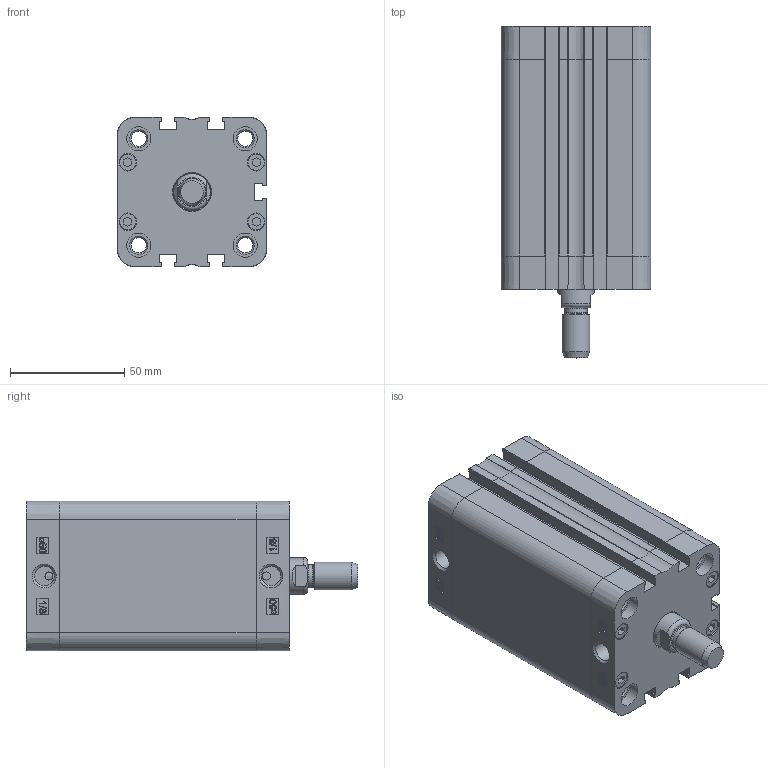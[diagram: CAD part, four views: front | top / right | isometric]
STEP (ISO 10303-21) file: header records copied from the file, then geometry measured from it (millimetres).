
FILE_DESCRIPTION((''),'2;1');
FILE_NAME('T:\Archivio Inventor\- CATALOGHI 2012\SERIE P - NUOVA\PDM\PDM050\PDM050.---.GS.M\PDM050.070.GS.M.stp','2013-02-01T12:20:12',('Administrator'),(''),'Autodesk Inventor 2012','Autodesk Inventor 2012','');
FILE_SCHEMA(('CONFIG_CONTROL_DESIGN'));
Length unit declared in the file: millimetre
Products named in the file (1): PDM050.070.GS.M
Bounding box: 65.5 x 145 x 65.5 mm (x, y, z)
Volume: 238881 mm3; surface area: 93866 mm2
Topology: 2 solids, 6 shells, 780 faces, 1860 edges, 1167 vertices
Faces by surface type: plane 335, bspline 196, cylinder 131, torus 56, cone 46, sphere 16
Full cylindrical faces by diameter (mm): 3.5 x2, 5.2 x4, 6.647 x8, 7.5 x8, 7.7 x8, 8.047 x4, 8.566 x2, 10 x1, 10.5 x8, 12 x2, 16 x1, 16.5 x1, 50 x1, 52.4 x1, 52.6 x1
Entity records: 25589 total; most frequent: CARTESIAN_POINT 8474, ORIENTED_EDGE 3488, DIRECTION 2866, EDGE_CURVE 1744, VERTEX_POINT 1148, AXIS2_PLACEMENT_3D 978, EDGE_LOOP 962, VECTOR 910
